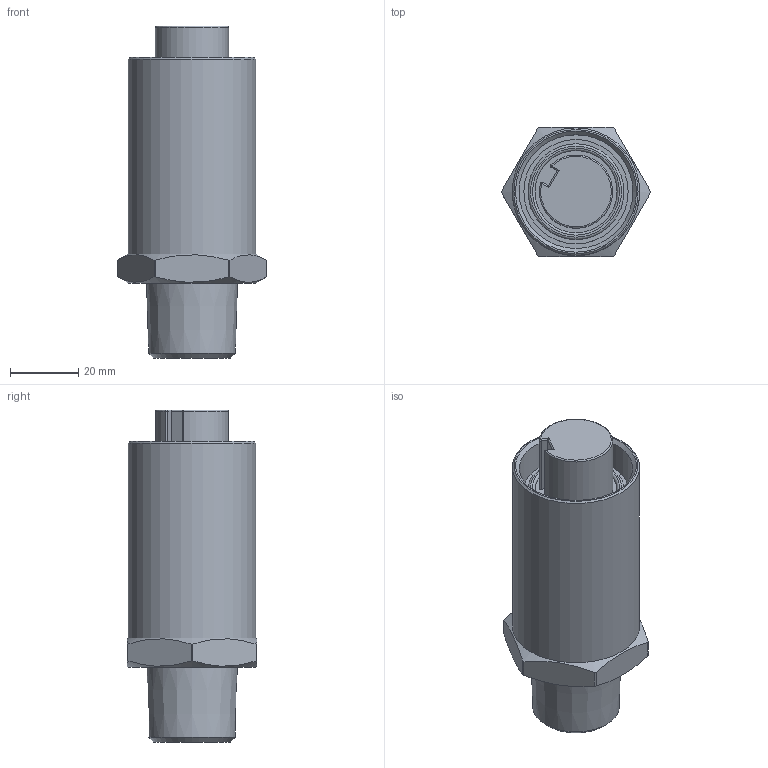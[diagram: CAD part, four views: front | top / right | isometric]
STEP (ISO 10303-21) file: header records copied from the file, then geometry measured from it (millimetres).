
FILE_DESCRIPTION(/* description */ ('PART (MM)'),/* implementation_level */ '2;1');
FILE_NAME(/* name */ 'L:\CAD Inventor\Workspace\Catalogs\CATALOG-TURCK CONNECTORS\PWR-GKDFV-EX-14_75NPT.stp',/* time_stamp */ '2021-06-17T10:35:49-05:00',/* author */ ('RSwans'),/* organization */ (''),/* preprocessor_version */ 'ST-DEVELOPER v16.5',/* originating_system */ 'Autodesk Inventor 2017',/* authorisation */ '');
FILE_SCHEMA (('AUTOMOTIVE_DESIGN { 1 0 10303 214 3 1 1 }'));
Length unit declared in the file: millimetre
Products named in the file (1): Part8
Bounding box: 43.7 x 38.1 x 97.4 mm (x, y, z)
Volume: 59530.2 mm3; surface area: 25376.6 mm2
Topology: 1 solids, 5 shells, 214 faces, 555 edges, 354 vertices
Faces by surface type: plane 72, cylinder 58, cone 55, bspline 22, torus 5, sphere 2
Full cylindrical faces by diameter (mm): 4.95 x4, 7 x4, 20 x1, 24 x2, 24.1 x1, 24.9 x1, 26.4 x11, 26.5 x1, 28 x1, 28.1 x1, 30.6 x1, 33.38 x1, 37.4 x1
Entity records: 6375 total; most frequent: CARTESIAN_POINT 1399, DIRECTION 1031, ORIENTED_EDGE 888, EDGE_CURVE 444, AXIS2_PLACEMENT_3D 443, VERTEX_POINT 316, EDGE_LOOP 306, CIRCLE 222
